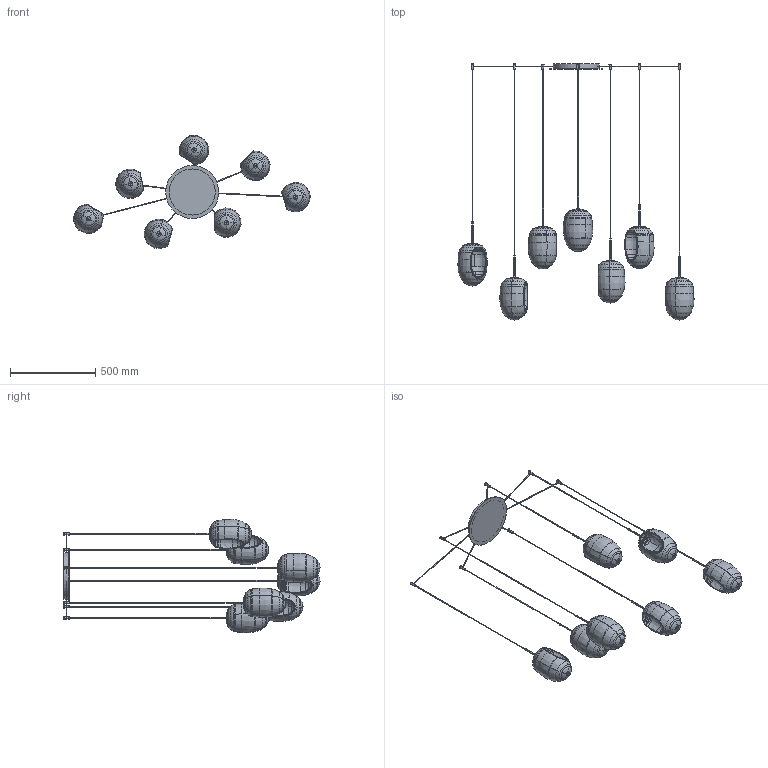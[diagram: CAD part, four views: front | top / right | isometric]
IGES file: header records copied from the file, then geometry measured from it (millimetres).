
Start section: SolidWorks IGES file using analytic representation for surfaces
Global section: file name: Y:\eforma\TECNICO\SOLIDWORKS\E-FORMA\09-LAMPADE\FOS\02 parts\FOS07_7 sospensione.IGS; native system: SolidWorks 2022; preprocessor: SolidWorks 2022; author: eforma.tech; date: 250519.091139; units: millimetre
Bounding box: 1384 x 1500.54 x 664.69 mm (x, y, z)
Volume: 4610438.2 mm3; surface area: 2480939.8 mm2
Topology: 71 solids, 71 shells, 1618 faces, 3873 edges, 2384 vertices
Faces by surface type: revolution 1042, plane 422, bspline 154
